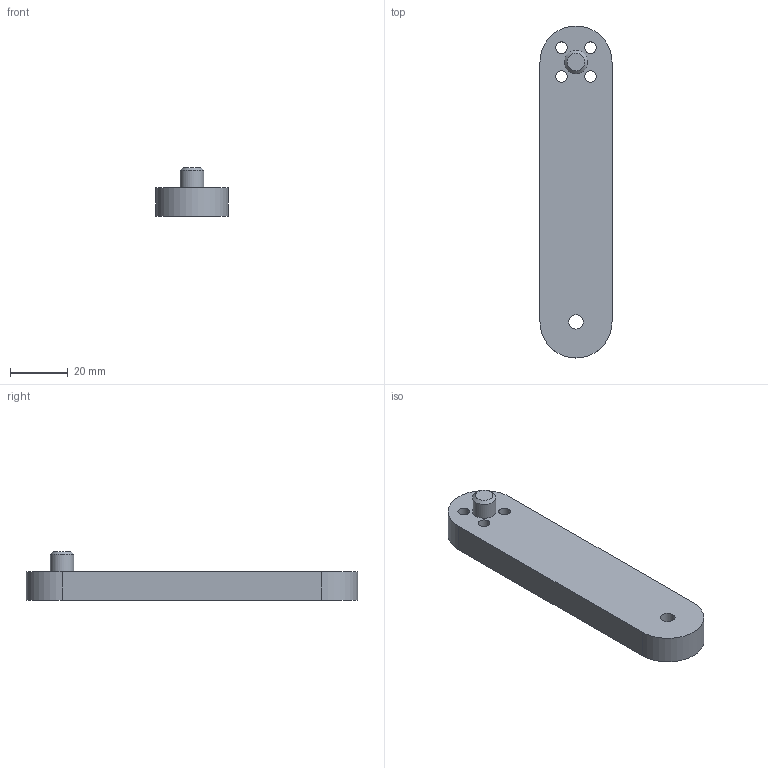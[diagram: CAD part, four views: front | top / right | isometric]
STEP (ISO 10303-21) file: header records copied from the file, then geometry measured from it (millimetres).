
FILE_DESCRIPTION(('STEP AP242 Edition 2','STEP AP242 Edition 2''CAx-IF Rec.Pracs.---Representation and Presentation of Product Manufacturing Information (PMI)---4.0---2014-10-13','STEP AP242 Edition 2''CAx-IF Rec.Pracs.---Representation and Presentation of Product Manufacturing Information (PMI)---4.0---2014-10-13''CAx-IF Rec.Pracs.---3D Tessellated Geometry---0.4---2014-09-14','STEP AP242 Edition 2''CAx-IF Rec.Pracs.---Representation and Presentation of Product Manufacturing Information (PMI)---4.0---2014-10-13''CAx-IF Rec.Pracs.---3D Tessellated Geometry---0.4---2014-09-14''2;1','STEP AP242 Edition 2''CAx-IF Rec.Pracs.---Representation and Presentation of Product Manufacturing Information (PMI)---4.0---2014-10-13''CAx-IF Rec.Pracs.---3D Tessellated Geometry---0.4---2014-09-14''2;1''CAx-IF Rec.Pracs.---User Defined Attributes---1.5---2016-08-15'),'2;1');
FILE_NAME('/vol/tmp/translate-17459121042689540201/Draw Bot V3 - Left L1 Arm.step','2026-03-21T23:30:54',(''),(''),'ST-DEVELOPER v20','ONSHAPE BY PTC INC, 1.212',' ');
FILE_SCHEMA(('AP242_MANAGED_MODEL_BASED_3D_ENGINEERING_MIM_LF { 1 0 10303 442 3 1 4 }'));
Length unit declared in the file: millimetre
Products named in the file (1): Left L1 Arm
Bounding box: 25 x 115 x 16.9 mm (x, y, z)
Volume: 26984.5 mm3; surface area: 8709 mm2
Topology: 1 solids, 1 shells, 19 faces, 42 edges, 26 vertices
Faces by surface type: cylinder 8, cone 6, plane 5
Full cylindrical faces by diameter (mm): 4 x4, 5 x1, 8.1 x1
Entity records: 512 total; most frequent: DIRECTION 92, CARTESIAN_POINT 76, ORIENTED_EDGE 60, EDGE_LOOP 42, FACE_BOUND 42, AXIS2_PLACEMENT_3D 42, EDGE_CURVE 30, VERTEX_POINT 26
